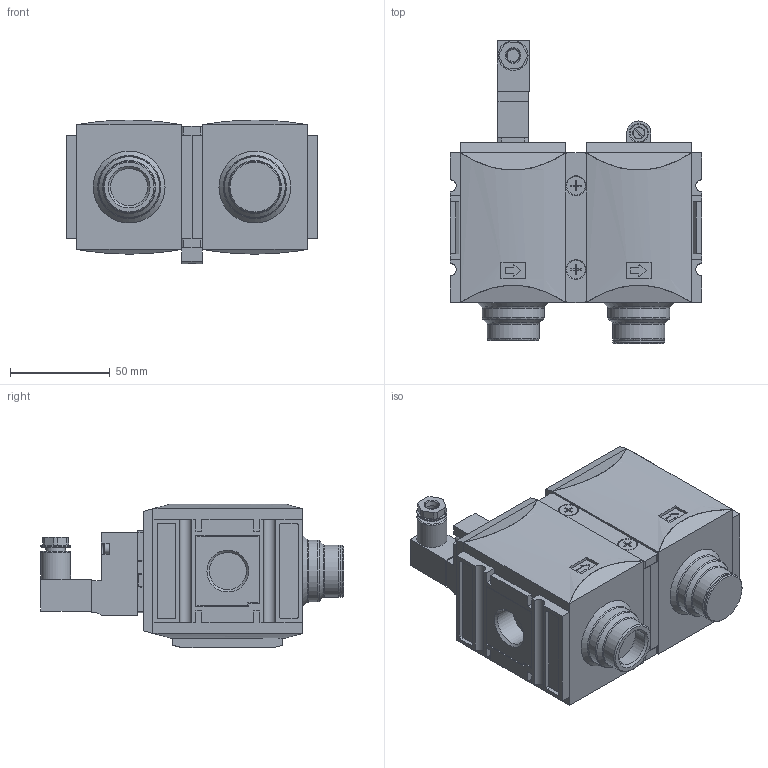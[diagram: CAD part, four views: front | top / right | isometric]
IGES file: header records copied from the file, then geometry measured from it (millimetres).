
Start section: Data from Parasolid IGES Translator 17.0.49, Copyright(c) 2006 Siemens P LM Software. All Rights Reserved.
Global section: file name: FU 954.igs; native system: By Siemens PLM Incorporated; preprocessor: XPlus GENERIC/IGES 17.0.49; author: Noname; organization: Noname; date: 20170112.154014; units: millimetre
Bounding box: 126 x 151.89 x 72.05 mm (x, y, z)
Surface area: 91922.6 mm2 (no closed solid volume)
Topology: 0 solids, 0 shells, 730 faces, 3628 edges, 3511 vertices
Faces by surface type: extrusion 485, revolution 245
